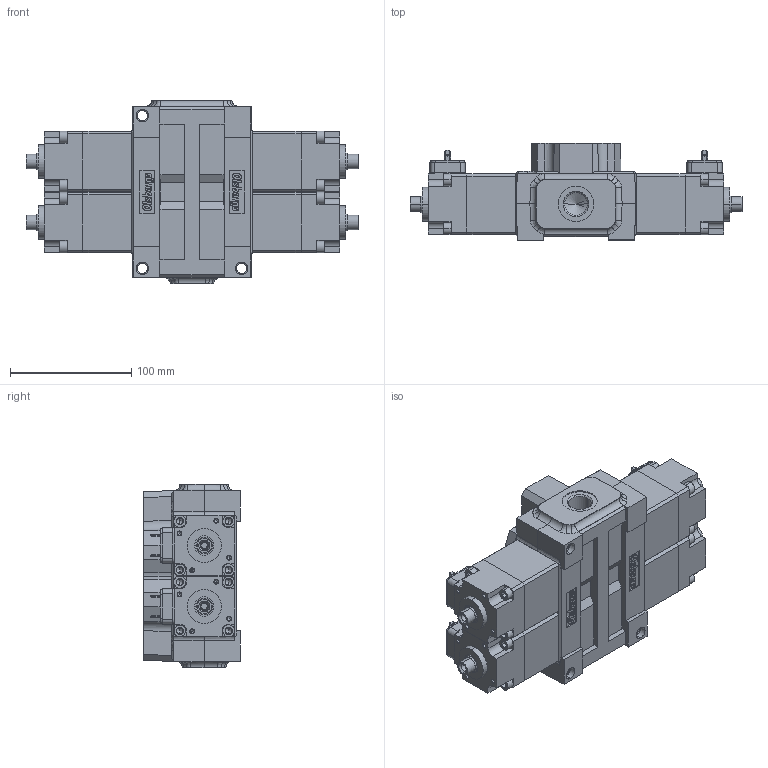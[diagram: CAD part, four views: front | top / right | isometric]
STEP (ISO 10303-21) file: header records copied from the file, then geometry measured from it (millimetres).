
FILE_DESCRIPTION (( 'STEP AP203' ), '1' );
FILE_NAME ('S-98500.STEP', '2018-05-21T14:09:02', ( '' ), ( '' ), 'SwSTEP 2.0', 'SolidWorks 2018', '' );
FILE_SCHEMA (( 'CONFIG_CONTROL_DESIGN' ));
Products named in the file (1): S-98500
Bounding box: 274 x 80 x 151.5 mm (x, y, z)
Volume: 1644639.6 mm3; surface area: 231056.9 mm2
Topology: 33 solids, 33 shells, 2552 faces, 6622 edges, 4204 vertices
Faces by surface type: plane 1145, cylinder 563, bspline 439, cone 341, torus 64
Entity records: 89600 total; most frequent: CARTESIAN_POINT 30765, ORIENTED_EDGE 13032, DIRECTION 10681, EDGE_CURVE 6516, VERTEX_POINT 4204, AXIS2_PLACEMENT_3D 3608, LINE 3465, VECTOR 3465
